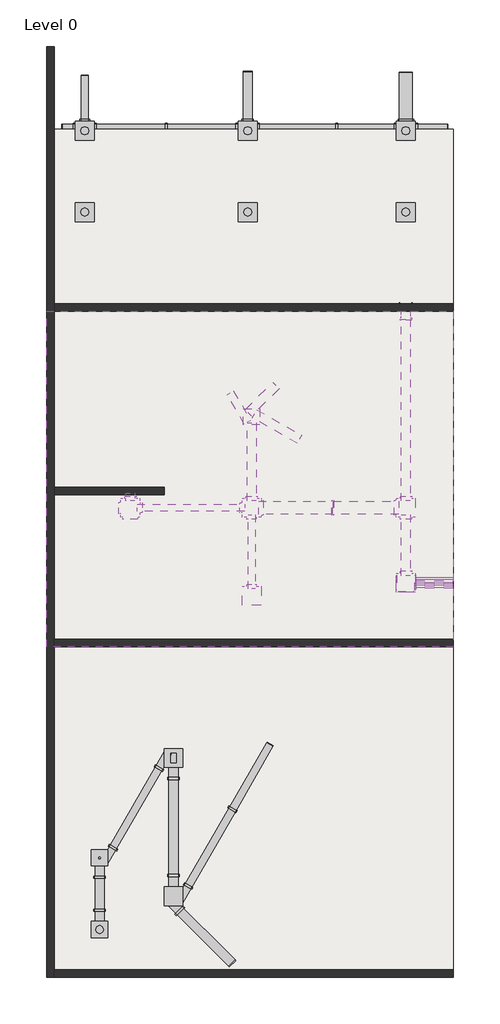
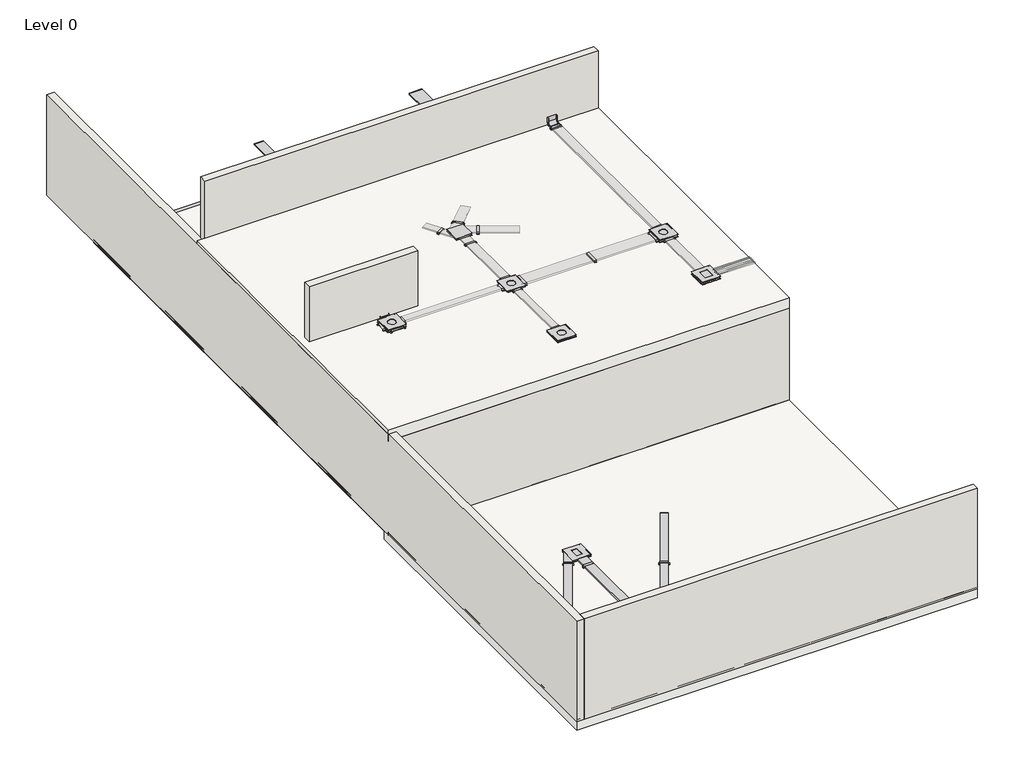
# One storey: 43 cable carrier segments, 40 cable carrier fittings, 5 slabs, 5 walls.
"""IFC4 building model written with IfcOpenShell, lengths in millimetres."""

from ifc_helpers import new_model, si_unit, point, frame, frame_2d, origin, origin_with_axes, place, context, project, spatial, polyline, circle_curve, trimmed, segment, composite_curve, outline, extrude, faceted_brep, transform, mapped, element, save
from components import cable_carrier_fitting_1449447f, cable_carrier_fitting_7ac4a7a7, cable_carrier_fitting_87aa20dd, cable_carrier_fitting_cbbdd0ad, cable_carrier_fitting_c73509c4, cable_carrier_fitting_62b491a6, cable_carrier_fitting_b13fa1fb, cable_carrier_fitting_6f266b18, cable_carrier_fitting_4ca78d10, cable_carrier_fitting_9fe9072b, cable_carrier_fitting_0547c750, cable_carrier_fitting_3ffd2079, cable_carrier_fitting_ff291c77, bracket_ukb_5e2ba21c, clamp_uks_f8b6c40f, clamp_uks_47fe2a39, clamp_uks_7d713c9f, clamp_uks_b9cb9329, end_bracket_uke_2c302845, end_bracket_uke_6d4a283f, end_bracket_uke_1009efe0, end_bracket_uke_49c26a37, end_bracket_uke_cbfa7e48, pipe_inlet_uds_f426f647, universal_junction_box_with_bottom_plate_size_2_cc3fe6d4, universal_junction_box_with_bottom_plate_size_2_f06dd73f, universal_junction_box_with_bottom_plate_size_3_b58b3dae, universal_junction_box_with_bottom_plate_size_3_48d80f4d, universal_junction_box_with_sheet_metal_casing_size_3_742ed20b, universal_junction_box_with_sheet_metal_casing_size_3_df0c8797

model = new_model("IFC4")

# Units and contexts
model_context = context("Model", 3, world=origin())
ifc_project = project(units=[si_unit("LENGTHUNIT", "METRE", prefix="MILLI")], contexts=[model_context])

# Site, building, storey
site = spatial("IfcSite", under=ifc_project)
building = spatial("IfcBuilding", under=site)
storey = spatial("IfcBuildingStorey", under=building, Name="Level 0", Elevation=0.0)

# Cable carrier fittings
placement = place(None, origin())
cable_carrier_fitting_shape = cable_carrier_fitting_1449447f(model_context)
element("IfcCableCarrierFitting", 1, ObjectType="Electrical-Installations_Hager_Vertical-Elbow-UKK : Vertical-Elbow-2-Compartments-UKK", at=placement, inside=storey, context=model_context, shape_type="MappedRepresentation", body=[
    mapped(cable_carrier_fitting_shape, transform((-6825.5844844, -4345.1669928, 2969.2), x_axis=(0.0, -1.0, 0.0), y_axis=(1.0000000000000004, 0.0, 0.0), z_axis=(0.0, 0.0, 1.0000000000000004))),
])
cable_carrier_fitting_2_shape = cable_carrier_fitting_7ac4a7a7(model_context)
element("IfcCableCarrierFitting", 2, ObjectType="Electrical-Installations_Hager_Vertical-Elbow-UKK : Vertical-Elbow-3-Compartments-UKK", at=placement, inside=storey, context=model_context, shape_type="MappedRepresentation", body=[
    mapped(cable_carrier_fitting_2_shape, transform((425.9001732, 439.801545, 2969.2), x_axis=(0.0, -1.0, 0.0), y_axis=(1.0, 0.0, 0.0), z_axis=(0.0, 0.0, 1.0))),
])
cable_carrier_fitting_3_shape = cable_carrier_fitting_87aa20dd(model_context)
element("IfcCableCarrierFitting", 3, ObjectType="Electrical-Installations_Hager_Vertical-Elbow-UKK : Vertical-Elbow-3-Compartments-UKK", at=placement, inside=storey, context=model_context, shape_type="MappedRepresentation", body=[
    mapped(cable_carrier_fitting_3_shape, transform((425.9001732, 1039.801545, 24.0), x_axis=(0.0, 1.0, 0.0), y_axis=(-1.0, 0.0, 0.0), z_axis=(0.0, 0.0, 1.0))),
])
cable_carrier_fitting_4_shape = cable_carrier_fitting_cbbdd0ad(model_context)
element("IfcCableCarrierFitting", 4, ObjectType="Electrical-Installations_Hager_Universal-Junction-Box-With-Retaining-Tabs-Size-2-Angled : Universal junction box with retaining tabs size 2", at=placement, inside=storey, context=model_context, shape_type="MappedRepresentation", body=[
    mapped(cable_carrier_fitting_4_shape, transform((-7633.6577636, -15627.7354934, 85.0), x_axis=(1.0, 0.0, 0.0), y_axis=(0.0, 1.0, 0.0), z_axis=(0.0, 0.0, 1.0))),
])
cable_carrier_fitting_5_shape = cable_carrier_fitting_c73509c4(model_context)
element("IfcCableCarrierFitting", 5, ObjectType="Electrical-Installations_Hager_Universal-Junction-Box-With-Retaining-Tabs-Size-3-Angled : Universal junction box with retaining tabs size 3", at=placement, inside=storey, context=model_context, shape_type="MappedRepresentation", body=[
    mapped(cable_carrier_fitting_5_shape, transform((-5689.5217227, -14751.4029445, 85.0), x_axis=(1.0, 0.0, 0.0), y_axis=(0.0, 1.0, 0.0), z_axis=(0.0, 0.0, 1.0))),
])
cable_carrier_fitting_6_shape = cable_carrier_fitting_62b491a6(model_context)
element("IfcCableCarrierFitting", 6, ObjectType="Electrical-Installations_Hager_Universal-Junction-Box-With-Retaining-Tabs-Size-2 : Universal junction box with retaining tabs size 2", at=placement, inside=storey, context=model_context, shape_type="MappedRepresentation", body=[
    mapped(cable_carrier_fitting_6_shape, transform((-6825.5844844, -4528.1669928, 2969.2), x_axis=(1.0, 0.0, 0.0), y_axis=(0.0, 1.0, 0.0), z_axis=(0.0, 0.0, 1.0))),
])
cable_carrier_fitting_7_shape = cable_carrier_fitting_b13fa1fb(model_context)
element("IfcCableCarrierFitting", 7, ObjectType="Electrical-Installations_Hager_Universal-Junction-Box-With-Retaining-Tabs-Size-3 : Universal junction box with retaining tabs size 3", at=placement, inside=storey, context=model_context, shape_type="MappedRepresentation", body=[
    mapped(cable_carrier_fitting_7_shape, transform((-3632.8221609, -4528.1669928, 2969.2), x_axis=(1.0, 0.0, 0.0), y_axis=(0.0, 1.0, 0.0), z_axis=(0.0, 0.0, 1.0))),
])
cable_carrier_fitting_8_shape = cable_carrier_fitting_6f266b18(model_context)
element("IfcCableCarrierFitting", 8, ObjectType="Electrical-Installations_Hager_Universal-Junction-Box-With-Retaining-Tabs-Size-3 : Universal junction box with retaining tabs size 3", at=placement, inside=storey, context=model_context, shape_type="MappedRepresentation", body=[
    mapped(cable_carrier_fitting_8_shape, transform((-8025.38033, 5391.6758526, 24.0), x_axis=(0.0, 1.0, 0.0), y_axis=(-1.0, 0.0, 0.0), z_axis=(0.0, 0.0, 1.0))),
])
cable_carrier_fitting_9_shape = cable_carrier_fitting_4ca78d10(model_context)
element("IfcCableCarrierFitting", 9, ObjectType="Electrical-Installations_Hager_Universal-Junction-Box-With-Retaining-Tabs-Size-3 : Universal junction box with retaining tabs size 3", at=placement, inside=storey, context=model_context, shape_type="MappedRepresentation", body=[
    mapped(cable_carrier_fitting_9_shape, transform((-8025.38033, 3255.0755111, 24.0), x_axis=(1.0, 0.0, 0.0), y_axis=(0.0, 1.0, 0.0), z_axis=(0.0, 0.0, 1.0))),
])
cable_carrier_fitting_10_shape = cable_carrier_fitting_9fe9072b(model_context)
element("IfcCableCarrierFitting", 10, ObjectType="Electrical-Installations_Hager_Universal-Junction-Box-With-Retaining-Tabs-Size-3 : Universal junction box with retaining tabs size 3", at=placement, inside=storey, context=model_context, shape_type="MappedRepresentation", body=[
    mapped(cable_carrier_fitting_10_shape, transform((-3736.4937866, 5391.6758526, 24.0), x_axis=(0.0, 1.0, 0.0), y_axis=(-1.0, 0.0, 0.0), z_axis=(0.0, 0.0, 1.0))),
])
cable_carrier_fitting_11_shape = cable_carrier_fitting_0547c750(model_context)
element("IfcCableCarrierFitting", 11, ObjectType="Electrical-Installations_Hager_Universal-Junction-Box-With-Retaining-Tabs-Size-3 : Universal junction box with retaining tabs size 3", at=placement, inside=storey, context=model_context, shape_type="MappedRepresentation", body=[
    mapped(cable_carrier_fitting_11_shape, transform((-3736.4937866, 3255.0755111, 24.0), x_axis=(0.0, 1.0, 0.0), y_axis=(-1.0, 0.0, 0.0), z_axis=(0.0, 0.0, 1.0))),
])
cable_carrier_fitting_12_shape = cable_carrier_fitting_3ffd2079(model_context)
element("IfcCableCarrierFitting", 12, ObjectType="Electrical-Installations_Hager_Universal-Junction-Box-With-Retaining-Tabs-Size-3 : Universal junction box with retaining tabs size 3", at=placement, inside=storey, context=model_context, shape_type="MappedRepresentation", body=[
    mapped(cable_carrier_fitting_12_shape, transform((425.9001732, 5391.6758526, 24.0), x_axis=(0.0, 1.0, 0.0), y_axis=(-1.0, 0.0, 0.0), z_axis=(0.0, 0.0, 1.0))),
])
cable_carrier_fitting_13_shape = cable_carrier_fitting_ff291c77(model_context)
element("IfcCableCarrierFitting", 13, ObjectType="Electrical-Installations_Hager_Universal-Junction-Box-With-Retaining-Tabs-Size-3 : Universal junction box with retaining tabs size 3", at=placement, inside=storey, context=model_context, shape_type="MappedRepresentation", body=[
    mapped(cable_carrier_fitting_13_shape, transform((425.9001732, 3255.0755111, 24.0), x_axis=(0.0, 1.0, 0.0), y_axis=(-1.0, 0.0, 0.0), z_axis=(0.0, 0.0, 1.0))),
])
bracket_ukb_shape = bracket_ukb_5e2ba21c(model_context)
element("IfcCableCarrierFitting", 14, ObjectType="Electrical-Installations_Hager_Bracket-UKB : Bracket-UKB", at=placement, inside=storey, context=model_context, shape_type="MappedRepresentation", body=[
    mapped(bracket_ukb_shape, transform((-8025.38033, 2317.662986, 10.0), x_axis=(1.0, 0.0, 0.0), y_axis=(0.0, 1.0, 0.0), z_axis=(0.0, 0.0, 1.0))),
])
clamp_uks_shape = clamp_uks_f8b6c40f(model_context)
element("IfcCableCarrierFitting", 15, ObjectType="Electrical-Installations_Hager_Clamp-UKS : Clamp-UKS", at=placement, inside=storey, context=model_context, shape_type="MappedRepresentation", body=[
    mapped(clamp_uks_shape, transform((-5851.4370583, 5391.6758526, 24.0), x_axis=(-1.0, 0.0, 0.0), y_axis=(0.0, -1.0, 0.0), z_axis=(0.0, 0.0, 1.0))),
])
element("IfcCableCarrierFitting", 16, ObjectType="Electrical-Installations_Hager_Clamp-UKS : Clamp-UKS", at=placement, inside=storey, context=model_context, shape_type="MappedRepresentation", body=[
    mapped(clamp_uks_shape, transform((-1361.520416, 5391.6758526, 24.0), x_axis=(-1.0, 0.0, 0.0), y_axis=(0.0, -1.0, 0.0), z_axis=(0.0, 0.0, 1.0))),
])
clamp_uks_2_shape = clamp_uks_47fe2a39(model_context)
element("IfcCableCarrierFitting", 17, ObjectType="Electrical-Installations_Hager_Clamp-UKS : Clamp-UKS", at=placement, inside=storey, context=model_context, shape_type="MappedRepresentation", body=[
    mapped(clamp_uks_2_shape, transform((-1361.520416, 3255.0755111, 24.0), x_axis=(-1.0, 0.0, 0.0), y_axis=(0.0, -1.0, 0.0), z_axis=(0.0, 0.0, 1.0))),
])
element("IfcCableCarrierFitting", 18, ObjectType="Electrical-Installations_Hager_Clamp-UKS : Clamp-UKS", at=placement, inside=storey, context=model_context, shape_type="MappedRepresentation", body=[
    mapped(clamp_uks_2_shape, transform((-5910.4370583, 3255.0755111, 24.0), x_axis=(-1.0, 0.0, 0.0), y_axis=(0.0, -1.0, 0.0), z_axis=(0.0, 0.0, 1.0))),
])
clamp_uks_3_shape = clamp_uks_7d713c9f(model_context)
element("IfcCableCarrierFitting", 19, ObjectType="Electrical-Installations_Hager_Clamp-UKS : Clamp-UKS", at=placement, inside=storey, context=model_context, shape_type="MappedRepresentation", body=[
    mapped(clamp_uks_3_shape, transform((-4123.5022728, -12438.8538416, 85.0), x_axis=(-0.5000000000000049, -0.8660254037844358, 0.0), y_axis=(0.8660254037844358, -0.5000000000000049, 0.0), z_axis=(0.0, 0.0, 1.0))),
])
clamp_uks_4_shape = clamp_uks_b9cb9329(model_context)
element("IfcCableCarrierFitting", 20, ObjectType="Electrical-Installations_Hager_Clamp-UKS : Clamp-UKS", at=placement, inside=storey, context=model_context, shape_type="MappedRepresentation", body=[
    mapped(clamp_uks_4_shape, transform((-1465.3079934, -4528.1669928, 2969.2), x_axis=(-1.0, 0.0, 0.0), y_axis=(0.0, -1.0, 0.0), z_axis=(0.0, 0.0, 1.0))),
])
end_bracket_uke_shape = end_bracket_uke_2c302845(model_context)
element("IfcCableCarrierFitting", 21, ObjectType="Electrical-Installations_Hager_End-Bracket-UKE : End-Bracket-UKE", at=placement, inside=storey, context=model_context, shape_type="MappedRepresentation", body=[
    mapped(end_bracket_uke_shape, transform((-8608.0895141, 5391.6758526, 24.0), x_axis=(-1.0, 0.0, 0.0), y_axis=(0.0, -1.0, 0.0), z_axis=(0.0, 0.0, 1.0))),
])
element("IfcCableCarrierFitting", 22, ObjectType="Electrical-Installations_Hager_End-Bracket-UKE : End-Bracket-UKE", at=placement, inside=storey, context=model_context, shape_type="MappedRepresentation", body=[
    mapped(end_bracket_uke_shape, transform((1512.5062134, 5391.6758526, 24.0), x_axis=(1.0, 0.0, 0.0), y_axis=(0.0, 1.0, 0.0), z_axis=(0.0, 0.0, 1.0))),
])
element("IfcCableCarrierFitting", 23, ObjectType="Electrical-Installations_Hager_End-Bracket-UKE : End-Bracket-UKE", at=placement, inside=storey, context=model_context, shape_type="MappedRepresentation", body=[
    mapped(end_bracket_uke_shape, transform((425.9001732, 6917.8189536, 24.0), x_axis=(0.0, 1.0, 0.0), y_axis=(-1.0, 0.0, 0.0), z_axis=(0.0, 0.0, 1.0))),
])
end_bracket_uke_2_shape = end_bracket_uke_6d4a283f(model_context)
element("IfcCableCarrierFitting", 24, ObjectType="Electrical-Installations_Hager_End-Bracket-UKE : End-Bracket-UKE", at=placement, inside=storey, context=model_context, shape_type="MappedRepresentation", body=[
    mapped(end_bracket_uke_2_shape, transform((-8608.0895141, 3255.0755111, 24.0), x_axis=(-1.0, 0.0, 0.0), y_axis=(0.0, -1.0, 0.0), z_axis=(0.0, 0.0, 1.0))),
])
element("IfcCableCarrierFitting", 25, ObjectType="Electrical-Installations_Hager_End-Bracket-UKE : End-Bracket-UKE", at=placement, inside=storey, context=model_context, shape_type="MappedRepresentation", body=[
    mapped(end_bracket_uke_2_shape, transform((-3736.4937866, 1606.0755111, 24.0), x_axis=(0.0, -1.0, 0.0), y_axis=(1.0, 0.0, 0.0), z_axis=(0.0, 0.0, 1.0))),
])
element("IfcCableCarrierFitting", 26, ObjectType="Electrical-Installations_Hager_End-Bracket-UKE : End-Bracket-UKE", at=placement, inside=storey, context=model_context, shape_type="MappedRepresentation", body=[
    mapped(end_bracket_uke_2_shape, transform((1512.5062134, 3255.0755111, 24.0), x_axis=(1.0, 0.0, 0.0), y_axis=(0.0, 1.0, 0.0), z_axis=(0.0, 0.0, 1.0))),
])
element("IfcCableCarrierFitting", 27, ObjectType="Electrical-Installations_Hager_End-Bracket-UKE : End-Bracket-UKE", at=placement, inside=storey, context=model_context, shape_type="MappedRepresentation", body=[
    mapped(end_bracket_uke_2_shape, transform((-3736.4937866, 6940.6758526, 24.0), x_axis=(0.0, 1.0, 0.0), y_axis=(-1.0, 0.0, 0.0), z_axis=(0.0, 0.0, 1.0))),
])
end_bracket_uke_3_shape = end_bracket_uke_1009efe0(model_context)
element("IfcCableCarrierFitting", 28, ObjectType="Electrical-Installations_Hager_End-Bracket-UKE : End-Bracket-UKE", at=placement, inside=storey, context=model_context, shape_type="MappedRepresentation", body=[
    mapped(end_bracket_uke_3_shape, transform((-8025.38033, 1726.0755111, 24.0), x_axis=(0.0, -1.0, 0.0), y_axis=(1.0, 0.0, 0.0), z_axis=(0.0, 0.0, 1.0))),
])
element("IfcCableCarrierFitting", 29, ObjectType="Electrical-Installations_Hager_End-Bracket-UKE : End-Bracket-UKE", at=placement, inside=storey, context=model_context, shape_type="MappedRepresentation", body=[
    mapped(end_bracket_uke_3_shape, transform((-8025.38033, 6840.6758526, 24.0), x_axis=(0.0, 1.0, 0.0), y_axis=(-1.0, 0.0, 0.0), z_axis=(0.0, 0.0, 1.0))),
])
end_bracket_uke_4_shape = end_bracket_uke_49c26a37(model_context)
element("IfcCableCarrierFitting", 30, ObjectType="Electrical-Installations_Hager_End-Bracket-UKE : End-Bracket-UKE", at=placement, inside=storey, context=model_context, shape_type="MappedRepresentation", body=[
    mapped(end_bracket_uke_4_shape, transform((-4148.0289397, -16514.1799987, 85.0), x_axis=(0.7071067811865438, -0.7071067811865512, 0.0), y_axis=(0.7071067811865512, 0.7071067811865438, 0.0), z_axis=(0.0, 0.0, 1.0))),
])
end_bracket_uke_5_shape = end_bracket_uke_cbfa7e48(model_context)
element("IfcCableCarrierFitting", 31, ObjectType="Electrical-Installations_Hager_End-Bracket-UKE : End-Bracket-UKE", at=placement, inside=storey, context=model_context, shape_type="MappedRepresentation", body=[
    mapped(end_bracket_uke_5_shape, transform((-3153.0022728, -10757.8985328, 85.0), x_axis=(0.5000000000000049, 0.8660254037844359, 0.0), y_axis=(-0.8660254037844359, 0.5000000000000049, 0.0), z_axis=(0.0, 0.0, 1.0))),
])
pipe_inlet_uds_shape = pipe_inlet_uds_f426f647(model_context)
element("IfcCableCarrierFitting", 32, ObjectType="Electrical-Installations_Hager_Pipe-Inlet-UDS : Pipe-Inlet-UDS", at=placement, inside=storey, context=model_context, shape_type="MappedRepresentation", body=[
    mapped(pipe_inlet_uds_shape, transform((658.9001732, -6496.8915456, 2957.247197), x_axis=(0.0, 1.0000000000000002, 0.0), y_axis=(-1.0000000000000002, 0.0, 0.0), z_axis=(0.0, 0.0, 1.0))),
])
element("IfcCableCarrierFitting", 33, ObjectType="Electrical-Installations_Hager_Pipe-Inlet-UDS : Pipe-Inlet-UDS", at=placement, inside=storey, context=model_context, shape_type="MappedRepresentation", body=[
    mapped(pipe_inlet_uds_shape, transform((425.9001732, -6729.8915456, 2957.247197), x_axis=(1.0, 0.0, 0.0), y_axis=(0.0, 1.0, 0.0), z_axis=(0.0, 0.0, 1.0))),
])
element("IfcCableCarrierFitting", 34, ObjectType="Electrical-Installations_Hager_Pipe-Inlet-UDS : Pipe-Inlet-UDS", at=placement, inside=storey, context=model_context, shape_type="MappedRepresentation", body=[
    mapped(pipe_inlet_uds_shape, transform((192.9001732, -6496.8915456, 2957.2), x_axis=(0.0, -1.0000000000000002, 0.0), y_axis=(1.0000000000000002, 0.0, 0.0), z_axis=(0.0, 0.0, 1.0))),
])
universal_junction_box_with_bottom_plate_size_2_shape = universal_junction_box_with_bottom_plate_size_2_cc3fe6d4(model_context)
element("IfcCableCarrierFitting", 35, ObjectType="Electrical-Installations_Hager_Universal-Junction-Box-With-Bottom-Plate-Size-2-Angled : Universal junction box with bottom plate size 2", at=placement, inside=storey, context=model_context, shape_type="MappedRepresentation", body=[
    mapped(universal_junction_box_with_bottom_plate_size_2_shape, transform((-3632.8221609, -2131.2102574, 2969.2), x_axis=(1.0, 0.0, 0.0), y_axis=(0.0, 1.0, 0.0), z_axis=(0.0, 0.0, 1.0))),
])
universal_junction_box_with_bottom_plate_size_2_2_shape = universal_junction_box_with_bottom_plate_size_2_f06dd73f(model_context)
element("IfcCableCarrierFitting", 36, ObjectType="Electrical-Installations_Hager_Universal-Junction-Box-With-Bottom-Plate-Size-2-Angled : Universal junction box with bottom plate size 2", at=placement, inside=storey, context=model_context, shape_type="MappedRepresentation", body=[
    mapped(universal_junction_box_with_bottom_plate_size_2_2_shape, transform((-7633.6577636, -13740.715542, 85.0), x_axis=(1.0, 0.0, 0.0), y_axis=(0.0, 1.0, 0.0), z_axis=(0.0, 0.0, 1.0))),
])
universal_junction_box_with_bottom_plate_size_3_shape = universal_junction_box_with_bottom_plate_size_3_b58b3dae(model_context)
element("IfcCableCarrierFitting", 37, ObjectType="Electrical-Installations_Hager_Universal-Junction-Box-With-Bottom-Plate-Size-3 : Universal junction box with bottom plate size 3", at=placement, inside=storey, context=model_context, shape_type="MappedRepresentation", body=[
    mapped(universal_junction_box_with_bottom_plate_size_3_shape, transform((-3632.8221609, -6848.0680021, 2969.2), x_axis=(1.0, 0.0, 0.0), y_axis=(0.0, 1.0, 0.0), z_axis=(0.0, 0.0, 1.0))),
])
universal_junction_box_with_bottom_plate_size_3_2_shape = universal_junction_box_with_bottom_plate_size_3_48d80f4d(model_context)
element("IfcCableCarrierFitting", 38, ObjectType="Electrical-Installations_Hager_Universal-Junction-Box-With-Bottom-Plate-Size-3-Angled : Universal junction box with bottom plate size 3", at=placement, inside=storey, context=model_context, shape_type="MappedRepresentation", body=[
    mapped(universal_junction_box_with_bottom_plate_size_3_2_shape, transform((-5689.5217227, -11112.5036639, 85.0), x_axis=(1.0, 0.0, 0.0), y_axis=(0.0, 1.0, 0.0), z_axis=(0.0, 0.0, 1.0))),
])
universal_junction_box_with_sheet_metal_casing_size_3_shape = universal_junction_box_with_sheet_metal_casing_size_3_742ed20b(model_context)
element("IfcCableCarrierFitting", 39, ObjectType="Electrical-Installations_Hager_Universal-Junction-Box-With-Sheet-Metal-Casing-Size-3 : Universal junction box with sheet metal casing size 3", at=placement, inside=storey, context=model_context, shape_type="MappedRepresentation", body=[
    mapped(universal_junction_box_with_sheet_metal_casing_size_3_shape, transform((425.9001732, -6496.8915456, 2969.2), x_axis=(1.0, 0.0, 0.0), y_axis=(0.0, 1.0, 0.0), z_axis=(0.0, 0.0, 1.0))),
])
universal_junction_box_with_sheet_metal_casing_size_3_2_shape = universal_junction_box_with_sheet_metal_casing_size_3_df0c8797(model_context)
element("IfcCableCarrierFitting", 40, ObjectType="Electrical-Installations_Hager_Universal-Junction-Box-With-Sheet-Metal-Casing-Size-3 : Universal junction box with sheet metal casing size 3", at=placement, inside=storey, context=model_context, shape_type="MappedRepresentation", body=[
    mapped(universal_junction_box_with_sheet_metal_casing_size_3_2_shape, transform((425.9001732, -4528.1669928, 2969.2), x_axis=(1.0, 0.0, 0.0), y_axis=(0.0, 1.0, 0.0), z_axis=(0.0, 0.0, 1.0))),
])

# Cable carrier segments
element("IfcCableCarrierSegment", 41, ObjectType="Electrical-Installations_Cable-Trays_Hager_Screed-Covered-Trunking-System-UK_Trunking-2-Compartments", at=placement, inside=storey, context=model_context, shape_type="SweptSolid", body=[
    extrude(outline(polyline([(608.9001732, 5221.6758526), (608.9001732, 5561.6758526), (1512.5062134, 5561.6758526), (1512.5062134, 5221.6758526), (608.9001732, 5221.6758526)])), frame((0.0, 0.0, 10.0), z_axis=(0.0, 0.0, 1.0), x_axis=(1.0, 0.0, 0.0)), (0.0, 0.0, 1.0), 28.0),
])
element("IfcCableCarrierSegment", 42, ObjectType="Electrical-Installations_Cable-Trays_Hager_Screed-Covered-Trunking-System-UK_Trunking-2-Compartments", at=placement, inside=storey, context=model_context, shape_type="SweptSolid", body=[
    extrude(outline(polyline([(-8608.0895141, 5221.6758526), (-8608.0895141, 5561.6758526), (-8208.38033, 5561.6758526), (-8208.38033, 5221.6758526), (-8608.0895141, 5221.6758526)])), frame((0.0, 0.0, 10.0), z_axis=(0.0, 0.0, 1.0), x_axis=(1.0, 0.0, 0.0)), (0.0, 0.0, 1.0), 28.0),
])
element("IfcCableCarrierSegment", 43, ObjectType="Electrical-Installations_Cable-Trays_Hager_Screed-Covered-Trunking-System-UK_Trunking-2-Compartments", at=placement, inside=storey, context=model_context, shape_type="SweptSolid", body=[
    extrude(outline(polyline([(608.9001732, 3135.0755111), (608.9001732, 3375.0755111), (1512.5062134, 3375.0755111), (1512.5062134, 3135.0755111), (608.9001732, 3135.0755111)])), frame((0.0, 0.0, 10.0), z_axis=(0.0, 0.0, 1.0), x_axis=(1.0, 0.0, 0.0)), (0.0, 0.0, 1.0), 28.0),
])
element("IfcCableCarrierSegment", 44, ObjectType="Electrical-Installations_Cable-Trays_Hager_Screed-Covered-Trunking-System-UK_Trunking-2-Compartments", at=placement, inside=storey, context=model_context, shape_type="SweptSolid", body=[
    extrude(outline(polyline([(-8608.0895141, 3135.0755111), (-8608.0895141, 3375.0755111), (-8208.38033, 3375.0755111), (-8208.38033, 3135.0755111), (-8608.0895141, 3135.0755111)])), frame((0.0, 0.0, 10.0), z_axis=(0.0, 0.0, 1.0), x_axis=(1.0, 0.0, 0.0)), (0.0, 0.0, 1.0), 28.0),
])
element("IfcCableCarrierSegment", 45, ObjectType="Electrical-Installations_Cable-Trays_Hager_Screed-Covered-Trunking-System-UK_Trunking-2-Compartments", at=placement, inside=storey, context=model_context, shape_type="SweptSolid", body=[
    extrude(outline(polyline([(-8120.38033, 5208.6758526), (-7930.38033, 5208.6758526), (-7930.38033, 3438.0755111), (-8120.38033, 3438.0755111), (-8120.38033, 5208.6758526)])), frame((0.0, 0.0, 10.0), z_axis=(0.0, 0.0, 1.0), x_axis=(1.0, 0.0, 0.0)), (0.0, 0.0, 1.0), 28.0),
])
element("IfcCableCarrierSegment", 46, ObjectType="Electrical-Installations_Cable-Trays_Hager_Screed-Covered-Trunking-System-UK_Trunking-2-Compartments", at=placement, inside=storey, context=model_context, shape_type="SweptSolid", body=[
    extrude(outline(polyline([(-3856.4937866, 3072.0755111), (-3616.4937866, 3072.0755111), (-3616.4937866, 1606.0755111), (-3856.4937866, 1606.0755111), (-3856.4937866, 3072.0755111)])), frame((0.0, 0.0, 10.0), z_axis=(0.0, 0.0, 1.0), x_axis=(1.0, 0.0, 0.0)), (0.0, 0.0, 1.0), 28.0),
])
element("IfcCableCarrierSegment", 47, ObjectType="Electrical-Installations_Cable-Trays_Hager_Screed-Covered-Trunking-System-UK_Trunking-2-Compartments", at=placement, inside=storey, context=model_context, shape_type="SweptSolid", body=[
    extrude(outline(polyline([(-3856.4937866, 5208.6758526), (-3616.4937866, 5208.6758526), (-3616.4937866, 3438.0755111), (-3856.4937866, 3438.0755111), (-3856.4937866, 5208.6758526)])), frame((0.0, 0.0, 10.0), z_axis=(0.0, 0.0, 1.0), x_axis=(1.0, 0.0, 0.0)), (0.0, 0.0, 1.0), 28.0),
])
element("IfcCableCarrierSegment", 48, ObjectType="Electrical-Installations_Cable-Trays_Hager_Screed-Covered-Trunking-System-UK_Trunking-2-Compartments", at=placement, inside=storey, context=model_context, shape_type="SweptSolid", body=[
    extrude(outline(polyline([(0.0, -340.0), (0.0, 0.0), (1343.143101, 0.0), (1343.143101, -340.0), (0.0, -340.0)])), frame((595.9001732, 6917.8189536, 10.0), z_axis=(0.0, -2.2085102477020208e-12, 1.0), x_axis=(0.0, -1.0, -2.2085102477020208e-12)), (0.0, 0.0, 1.0), 28.0),
])
element("IfcCableCarrierSegment", 49, ObjectType="Electrical-Installations_Cable-Trays_Hager_Screed-Covered-Trunking-System-UK_Trunking-2-Compartments", at=placement, inside=storey, context=model_context, shape_type="SweptSolid", body=[
    extrude(outline(polyline([(255.9001732, 5208.6758526), (595.9001732, 5208.6758526), (595.9001732, 3438.0755111), (255.9001732, 3438.0755111), (255.9001732, 5208.6758526)])), frame((0.0, 0.0, 10.0), z_axis=(0.0, 0.0, 1.0), x_axis=(1.0, 0.0, 0.0)), (0.0, 0.0, 1.0), 28.0),
])
element("IfcCableCarrierSegment", 50, ObjectType="Electrical-Installations_Cable-Trays_Hager_Screed-Covered-Trunking-System-UK_Trunking-2-Compartments", at=placement, inside=storey, context=model_context, shape_type="SweptSolid", body=[
    extrude(outline(polyline([(-7842.38033, 5221.6758526), (-7842.38033, 5561.6758526), (-5881.4396804, 5561.6758526), (-5881.4396804, 5221.6758526), (-7842.38033, 5221.6758526)])), frame((0.0, 0.0, 10.0), z_axis=(0.0, 0.0, 1.0), x_axis=(1.0, 0.0, 0.0)), (0.0, 0.0, 1.0), 28.0),
])
element("IfcCableCarrierSegment", 51, ObjectType="Electrical-Installations_Cable-Trays_Hager_Screed-Covered-Trunking-System-UK_Trunking-2-Compartments", at=placement, inside=storey, context=model_context, shape_type="SweptSolid", body=[
    extrude(outline(polyline([(-3553.4937866, 5221.6758526), (-3553.4937866, 5561.6758526), (-1391.5230381, 5561.6758526), (-1391.5230381, 5221.6758526), (-3553.4937866, 5221.6758526)])), frame((0.0, 0.0, 10.0), z_axis=(0.0, 0.0, 1.0), x_axis=(1.0, 0.0, 0.0)), (0.0, 0.0, 1.0), 28.0),
])
element("IfcCableCarrierSegment", 52, ObjectType="Electrical-Installations_Cable-Trays_Hager_Screed-Covered-Trunking-System-UK_Trunking-2-Compartments", at=placement, inside=storey, context=model_context, shape_type="SweptSolid", body=[
    extrude(outline(polyline([(-3553.4937866, 3135.0755111), (-3553.4937866, 3375.0755111), (-1391.5230381, 3375.0755111), (-1391.5230381, 3135.0755111), (-3553.4937866, 3135.0755111)])), frame((0.0, 0.0, 10.0), z_axis=(0.0, 0.0, 1.0), x_axis=(1.0, 0.0, 0.0)), (0.0, 0.0, 1.0), 28.0),
])
element("IfcCableCarrierSegment", 53, ObjectType="Electrical-Installations_Cable-Trays_Hager_Screed-Covered-Trunking-System-UK_Trunking-2-Compartments", at=placement, inside=storey, context=model_context, shape_type="SweptSolid", body=[
    extrude(outline(polyline([(-7842.38033, 3135.0755111), (-7842.38033, 3375.0755111), (-5940.4396804, 3375.0755111), (-5940.4396804, 3135.0755111), (-7842.38033, 3135.0755111)])), frame((0.0, 0.0, 10.0), z_axis=(0.0, 0.0, 1.0), x_axis=(1.0, 0.0, 0.0)), (0.0, 0.0, 1.0), 28.0),
])
element("IfcCableCarrierSegment", 54, ObjectType="Electrical-Installations_Cable-Trays_Hager_Screed-Covered-Trunking-System-UK_Trunking-2-Compartments", at=placement, inside=storey, context=model_context, shape_type="SweptSolid", body=[
    extrude(outline(polyline([(-8120.38033, 3072.0755111), (-7930.38033, 3072.0755111), (-7930.38033, 1726.0755111), (-8120.38033, 1726.0755111), (-8120.38033, 3072.0755111)])), frame((0.0, 0.0, 10.0), z_axis=(0.0, 0.0, 1.0), x_axis=(1.0, 0.0, 0.0)), (0.0, 0.0, 1.0), 28.0),
])
element("IfcCableCarrierSegment", 55, ObjectType="Electrical-Installations_Cable-Trays_Hager_Screed-Covered-Trunking-System-UK_Trunking-3-Compartments", at=placement, inside=storey, context=model_context, shape_type="SweptSolid", body=[
    extrude(outline(polyline([(255.9001732, 3072.0755111), (595.9001732, 3072.0755111), (595.9001732, 1039.801545), (255.9001732, 1039.801545), (255.9001732, 3072.0755111)])), frame((0.0, 0.0, 10.0), z_axis=(0.0, 0.0, 1.0), x_axis=(1.0, 0.0, 0.0)), (0.0, 0.0, 1.0), 28.0),
])
element("IfcCableCarrierSegment", 56, ObjectType="Electrical-Installations_Cable-Trays_Hager_Screed-Covered-Trunking-System-UK_Trunking-3-Compartments", at=placement, inside=storey, context=model_context, shape_type="SweptSolid", body=[
    extrude(outline(polyline([(-7930.38033, 5574.6758526), (-8120.38033, 5574.6758526), (-8120.38033, 6840.6758526), (-7930.38033, 6840.6758526), (-7930.38033, 5574.6758526)])), frame((0.0, 0.0, 10.0), z_axis=(0.0, 0.0, 1.0), x_axis=(1.0, 0.0, 0.0)), (0.0, 0.0, 1.0), 28.0),
])
element("IfcCableCarrierSegment", 57, ObjectType="Electrical-Installations_Cable-Trays_Hager_Screed-Covered-Trunking-System-UK_Trunking-3-Compartments", at=placement, inside=storey, context=model_context, shape_type="SweptSolid", body=[
    extrude(outline(polyline([(-3815.8221609, -4433.1669928), (-3815.8221609, -4623.1669928), (-6642.5844844, -4623.1669928), (-6642.5844844, -4433.1669928), (-3815.8221609, -4433.1669928)])), frame((0.0, 0.0, 2945.2), z_axis=(0.0, 0.0, 1.0), x_axis=(1.0, 0.0, 0.0)), (0.0, 0.0, 1.0), 48.0),
])
element("IfcCableCarrierSegment", 58, ObjectType="Electrical-Installations_Cable-Trays_Hager_Screed-Covered-Trunking-System-UK_Trunking-3-Compartments", at=placement, inside=storey, context=model_context, shape_type="SweptSolid", body=[
    extrude(outline(polyline([(305.9001732, -4711.1669928), (545.9001732, -4711.1669928), (545.9001732, -6313.8915456), (305.9001732, -6313.8915456), (305.9001732, -4711.1669928)])), frame((0.0, 0.0, 2955.2), z_axis=(0.0, 0.0, 1.0), x_axis=(1.0, 0.0, 0.0)), (0.0, 0.0, 1.0), 28.0),
])
element("IfcCableCarrierSegment", 59, ObjectType="Electrical-Installations_Cable-Trays_Hager_Screed-Covered-Trunking-System-UK_Trunking-3-Compartments", at=placement, inside=storey, context=model_context, shape_type="SweptSolid", body=[
    extrude(outline(polyline([(545.9001732, -4345.1669928), (305.9001732, -4345.1669928), (305.9001732, 439.801545), (545.9001732, 439.801545), (545.9001732, -4345.1669928)])), frame((0.0, 0.0, 2945.2), z_axis=(0.0, 0.0, 1.0), x_axis=(1.0, 0.0, 0.0)), (0.0, 0.0, 1.0), 48.0),
])
element("IfcCableCarrierSegment", 60, ObjectType="Electrical-Installations_Cable-Trays_Hager_Screed-Covered-Trunking-System-UK_Trunking-3-Compartments", at=placement, inside=storey, context=model_context, shape_type="SweptSolid", body=[
    extrude(outline(polyline([(-3727.8221609, -4711.1669928), (-3537.8221609, -4711.1669928), (-3537.8221609, -6663.0680021), (-3727.8221609, -6663.0680021), (-3727.8221609, -4711.1669928)])), frame((0.0, 0.0, 2955.2), z_axis=(0.0, 0.0, 1.0), x_axis=(1.0, 0.0, 0.0)), (0.0, 0.0, 1.0), 28.0),
])
element("IfcCableCarrierSegment", 61, ObjectType="Rigid Nonmetallic Conduit (RNC)", at=placement, inside=storey, context=model_context, shape_type="SweptSolid", body=[
    extrude(outline(composite_curve([segment(trimmed(circle_curve(frame_2d((-6630.0774292, 2984.3)), 10.0), [point((-6640.0774292, 2984.3))], [point((-6630.0774292, 2994.3))], False, "CARTESIAN"), True, "CONTINUOUS"), segment(trimmed(circle_curve(frame_2d((-6630.0774292, 2984.3)), 10.0), [point((-6630.0774292, 2994.3))], [point((-6620.0774292, 2984.3))], False, "CARTESIAN"), True, "CONTINUOUS"), segment(trimmed(circle_curve(frame_2d((-6630.0774292, 2984.3)), 10.0), [point((-6620.0774292, 2984.3))], [point((-6630.0774292, 2974.3))], False, "CARTESIAN"), True, "CONTINUOUS"), segment(trimmed(circle_curve(frame_2d((-6630.0774292, 2984.3)), 10.0), [point((-6630.0774292, 2974.3))], [point((-6640.0774292, 2984.3))], False, "CARTESIAN"), True, "CONTINUOUS")], self_intersect=False)), frame((683.9001732, 0.0, 0.0), z_axis=(1.0, 0.0, 0.0), x_axis=(0.0, 1.0, 0.0)), (0.0, 0.0, 1.0), 980.0),
])
element("IfcCableCarrierSegment", 62, ObjectType="Rigid Nonmetallic Conduit (RNC)", at=placement, inside=storey, context=model_context, shape_type="SweptSolid", body=[
    extrude(outline(composite_curve([segment(trimmed(circle_curve(frame_2d((-6576.3274292, 2984.3)), 16.0), [point((-6592.3274292, 2984.3))], [point((-6576.3274292, 3000.3))], False, "CARTESIAN"), True, "CONTINUOUS"), segment(trimmed(circle_curve(frame_2d((-6576.3274292, 2984.3)), 16.0), [point((-6576.3274292, 3000.3))], [point((-6560.3274292, 2984.3))], False, "CARTESIAN"), True, "CONTINUOUS"), segment(trimmed(circle_curve(frame_2d((-6576.3274292, 2984.3)), 16.0), [point((-6560.3274292, 2984.3))], [point((-6576.3274292, 2968.3))], False, "CARTESIAN"), True, "CONTINUOUS"), segment(trimmed(circle_curve(frame_2d((-6576.3274292, 2984.3)), 16.0), [point((-6576.3274292, 2968.3))], [point((-6592.3274292, 2984.3))], False, "CARTESIAN"), True, "CONTINUOUS")], self_intersect=False)), frame((683.9001732, 0.0, 0.0), z_axis=(1.0, 0.0, 0.0), x_axis=(0.0, 1.0, 0.0)), (0.0, 0.0, 1.0), 980.0),
])
element("IfcCableCarrierSegment", 63, ObjectType="Rigid Nonmetallic Conduit (RNC)", at=placement, inside=storey, context=model_context, shape_type="SweptSolid", body=[
    extrude(outline(composite_curve([segment(trimmed(circle_curve(frame_2d((-6523.8274292, 2984.3)), 20.0), [point((-6543.8274292, 2984.3))], [point((-6523.8274292, 3004.3))], False, "CARTESIAN"), True, "CONTINUOUS"), segment(trimmed(circle_curve(frame_2d((-6523.8274292, 2984.3)), 20.0), [point((-6523.8274292, 3004.3))], [point((-6503.8274292, 2984.3))], False, "CARTESIAN"), True, "CONTINUOUS"), segment(trimmed(circle_curve(frame_2d((-6523.8274292, 2984.3)), 20.0), [point((-6503.8274292, 2984.3))], [point((-6523.8274292, 2964.3))], False, "CARTESIAN"), True, "CONTINUOUS"), segment(trimmed(circle_curve(frame_2d((-6523.8274292, 2984.3)), 20.0), [point((-6523.8274292, 2964.3))], [point((-6543.8274292, 2984.3))], False, "CARTESIAN"), True, "CONTINUOUS")], self_intersect=False)), frame((683.9001732, 0.0, 0.0), z_axis=(1.0, 0.0, 0.0), x_axis=(0.0, 1.0, 0.0)), (0.0, 0.0, 1.0), 980.0),
])
element("IfcCableCarrierSegment", 64, ObjectType="Rigid Nonmetallic Conduit (RNC)", at=placement, inside=storey, context=model_context, shape_type="SweptSolid", body=[
    extrude(outline(composite_curve([segment(trimmed(circle_curve(frame_2d((-6470.0774292, 2984.3)), 25.0), [point((-6495.0774292, 2984.3))], [point((-6470.0774292, 3009.3))], False, "CARTESIAN"), True, "CONTINUOUS"), segment(trimmed(circle_curve(frame_2d((-6470.0774292, 2984.3)), 25.0), [point((-6470.0774292, 3009.3))], [point((-6445.0774292, 2984.3))], False, "CARTESIAN"), True, "CONTINUOUS"), segment(trimmed(circle_curve(frame_2d((-6470.0774292, 2984.3)), 25.0), [point((-6445.0774292, 2984.3))], [point((-6470.0774292, 2959.3))], False, "CARTESIAN"), True, "CONTINUOUS"), segment(trimmed(circle_curve(frame_2d((-6470.0774292, 2984.3)), 25.0), [point((-6470.0774292, 2959.3))], [point((-6495.0774292, 2984.3))], False, "CARTESIAN"), True, "CONTINUOUS")], self_intersect=False)), frame((683.9001732, 0.0, 0.0), z_axis=(1.0, 0.0, 0.0), x_axis=(0.0, 1.0, 0.0)), (0.0, 0.0, 1.0), 980.0),
])
element("IfcCableCarrierSegment", 65, ObjectType="Rigid Nonmetallic Conduit (RNC)", at=placement, inside=storey, context=model_context, shape_type="SweptSolid", body=[
    extrude(outline(composite_curve([segment(trimmed(circle_curve(frame_2d((-6417.5774292, 2984.3)), 10.0), [point((-6427.5774292, 2984.3))], [point((-6417.5774292, 2994.3))], False, "CARTESIAN"), True, "CONTINUOUS"), segment(trimmed(circle_curve(frame_2d((-6417.5774292, 2984.3)), 10.0), [point((-6417.5774292, 2994.3))], [point((-6407.5774292, 2984.3))], False, "CARTESIAN"), True, "CONTINUOUS"), segment(trimmed(circle_curve(frame_2d((-6417.5774292, 2984.3)), 10.0), [point((-6407.5774292, 2984.3))], [point((-6417.5774292, 2974.3))], False, "CARTESIAN"), True, "CONTINUOUS"), segment(trimmed(circle_curve(frame_2d((-6417.5774292, 2984.3)), 10.0), [point((-6417.5774292, 2974.3))], [point((-6427.5774292, 2984.3))], False, "CARTESIAN"), True, "CONTINUOUS")], self_intersect=False)), frame((683.9001732, 0.0, 0.0), z_axis=(1.0, 0.0, 0.0), x_axis=(0.0, 1.0, 0.0)), (0.0, 0.0, 1.0), 980.0),
])
element("IfcCableCarrierSegment", 66, ObjectType="Rigid Nonmetallic Conduit (RNC)", at=placement, inside=storey, context=model_context, shape_type="SweptSolid", body=[
    extrude(outline(composite_curve([segment(trimmed(circle_curve(frame_2d((-6363.8274292, 2984.3)), 10.0), [point((-6373.8274292, 2984.3))], [point((-6363.8274292, 2994.3))], False, "CARTESIAN"), True, "CONTINUOUS"), segment(trimmed(circle_curve(frame_2d((-6363.8274292, 2984.3)), 10.0), [point((-6363.8274292, 2994.3))], [point((-6353.8274292, 2984.3))], False, "CARTESIAN"), True, "CONTINUOUS"), segment(trimmed(circle_curve(frame_2d((-6363.8274292, 2984.3)), 10.0), [point((-6353.8274292, 2984.3))], [point((-6363.8274292, 2974.3))], False, "CARTESIAN"), True, "CONTINUOUS"), segment(trimmed(circle_curve(frame_2d((-6363.8274292, 2984.3)), 10.0), [point((-6363.8274292, 2974.3))], [point((-6373.8274292, 2984.3))], False, "CARTESIAN"), True, "CONTINUOUS")], self_intersect=False)), frame((683.9001732, 0.0, 0.0), z_axis=(1.0, 0.0, 0.0), x_axis=(0.0, 1.0, 0.0)), (0.0, 0.0, 1.0), 980.0),
])
element("IfcCableCarrierSegment", 67, ObjectType="Electrical-Installations_Cable-Trays_Hager_Screed-Covered-Trunking-System-UK_Trunking-2-Compartments", at=placement, inside=storey, context=model_context, shape_type="SweptSolid", body=[
    extrude(outline(polyline([(-3616.4937866, 5574.6758526), (-3856.4937866, 5574.6758526), (-3856.4937866, 6940.6758526), (-3616.4937866, 6940.6758526), (-3616.4937866, 5574.6758526)])), frame((0.0, 0.0, 10.0), z_axis=(0.0, 0.0, 1.0), x_axis=(1.0, 0.0, 0.0)), (0.0, 0.0, 1.0), 28.0),
])
element("IfcCableCarrierSegment", 68, ObjectType="Electrical-Installations_Cable-Trays_Hager_Screed-Covered-Trunking-System-UK_Trunking-3-Compartments", at=placement, inside=storey, context=model_context, shape_type="SweptSolid", body=[
    extrude(outline(polyline([(-3512.8221609, -4345.1669928), (-3752.8221609, -4345.1669928), (-3752.8221609, -2289.2102574), (-3512.8221609, -2289.2102574), (-3512.8221609, -4345.1669928)])), frame((0.0, 0.0, 2955.2), z_axis=(0.0, 0.0, 1.0), x_axis=(1.0, 0.0, 0.0)), (0.0, 0.0, 1.0), 28.0),
])
element("IfcCableCarrierSegment", 69, ObjectType="Electrical-Installations_Cable-Trays_Hager_Screed-Covered-Trunking-System-UK_Trunking-3-Compartments", at=placement, inside=storey, context=model_context, shape_type="SweptSolid", body=[
    extrude(outline(polyline([(-3660.9183503, -2231.8006014), (-3825.4631771, -2326.8006014), (-4275.4631771, -1547.377738), (-4110.9183503, -1452.377738), (-3660.9183503, -2231.8006014)])), frame((0.0, 0.0, 2955.2), z_axis=(0.0, 0.0, 1.0), x_axis=(1.0, 0.0, 0.0)), (0.0, 0.0, 1.0), 28.0),
])
element("IfcCableCarrierSegment", 70, ObjectType="Electrical-Installations_Cable-Trays_Hager_Screed-Covered-Trunking-System-UK_Trunking-3-Compartments", at=placement, inside=storey, context=model_context, shape_type="SweptSolid", body=[
    extrude(outline(polyline([(-3632.8221609, -2114.6316136), (-3802.5277884, -1944.9259862), (-3081.2788716, -1223.6770693), (-2911.5732441, -1393.3826968), (-3632.8221609, -2114.6316136)])), frame((0.0, 0.0, 2955.2), z_axis=(0.0, 0.0, 1.0), x_axis=(1.0, 0.0, 0.0)), (0.0, 0.0, 1.0), 28.0),
])
element("IfcCableCarrierSegment", 71, ObjectType="Electrical-Installations_Cable-Trays_Hager_Screed-Covered-Trunking-System-UK_Trunking-2-Compartments", at=placement, inside=storey, context=model_context, shape_type="SweptSolid", body=[
    extrude(outline(polyline([(-5569.5217227, -14558.4029445), (-5809.5217227, -14558.4029445), (-5809.5217227, -11305.5036639), (-5569.5217227, -11305.5036639), (-5569.5217227, -14558.4029445)])), frame((0.0, 0.0, 61.0), z_axis=(0.0, 0.0, 1.0), x_axis=(1.0, 0.0, 0.0)), (0.0, 0.0, 1.0), 48.0),
])
element("IfcCableCarrierSegment", 72, ObjectType="Electrical-Installations_Cable-Trays_Hager_Screed-Covered-Trunking-System-UK_Trunking-2-Compartments", at=placement, inside=storey, context=model_context, shape_type="SweptSolid", body=[
    extrude(outline(polyline([(-5859.2273502, -14972.6872157), (-5689.5217227, -14802.9815882), (-4063.1761259, -16429.3271849), (-4232.8817534, -16599.0328124), (-5859.2273502, -14972.6872157)])), frame((0.0, 0.0, 61.0), z_axis=(0.0, 0.0, 1.0), x_axis=(1.0, 0.0, 0.0)), (0.0, 0.0, 1.0), 48.0),
])
element("IfcCableCarrierSegment", 73, ObjectType="Electrical-Installations_Cable-Trays_Hager_Screed-Covered-Trunking-System-UK_Trunking-2-Compartments", at=placement, inside=storey, context=model_context, shape_type="SweptSolid", body=[
    extrude(outline(polyline([(-5917.1627388, -10916.9133198), (-5752.6179121, -11011.9133198), (-7441.0167474, -13936.305886), (-7605.5615741, -13841.305886), (-5917.1627388, -10916.9133198)])), frame((0.0, 0.0, 61.0), z_axis=(0.0, 0.0, 1.0), x_axis=(1.0, 0.0, 0.0)), (0.0, 0.0, 1.0), 48.0),
])
element("IfcCableCarrierSegment", 74, ObjectType="Electrical-Installations_Cable-Trays_Hager_Screed-Covered-Trunking-System-UK_Trunking-2-Compartments", at=placement, inside=storey, context=model_context, shape_type="SweptSolid", body=[
    extrude(outline(polyline([(-5461.8807065, -14946.9932885), (-5626.4255332, -14851.9932885), (-4220.7759972, -12417.3368745), (-4056.2311705, -12512.3368745), (-5461.8807065, -14946.9932885)])), frame((0.0, 0.0, 61.0), z_axis=(0.0, 0.0, 1.0), x_axis=(1.0, 0.0, 0.0)), (0.0, 0.0, 1.0), 48.0),
])
element("IfcCableCarrierSegment", 75, ObjectType="Electrical-Installations_Cable-Trays_Hager_Screed-Covered-Trunking-System-UK_Trunking-3-Compartments", at=placement, inside=storey, context=model_context, shape_type="SweptSolid", body=[
    extrude(outline(polyline([(-3613.0217876, -2153.0787411), (-3493.0217876, -1945.2326442), (-2315.2272385, -2625.2326442), (-2435.2272385, -2833.0787411), (-3613.0217876, -2153.0787411)])), frame((0.0, 0.0, 2955.2), z_axis=(0.0, 0.0, 1.0), x_axis=(1.0, 0.0, 0.0)), (0.0, 0.0, 1.0), 28.0),
])
element("IfcCableCarrierSegment", 76, ObjectType="Electrical-Installations_Cable-Trays_Hager_Screed-Covered-Trunking-System-UK_Trunking-2-Compartments", at=placement, inside=storey, context=model_context, shape_type="SweptSolid", body=[
    extrude(outline(polyline([(-4055.7285484, -12511.4663075), (-4220.2733751, -12416.4663075), (-3235.2746862, -10710.3985328), (-3070.7298595, -10805.3985328), (-4055.7285484, -12511.4663075)])), frame((0.0, 0.0, 61.0), z_axis=(0.0, 0.0, 1.0), x_axis=(1.0, 0.0, 0.0)), (0.0, 0.0, 1.0), 48.0),
])
element("IfcCableCarrierSegment", 77, ObjectType="Electrical-Installations_Cable-Trays_Hager_Screed-Covered-Trunking-System-UK_Trunking-2-Compartments", at=placement, inside=storey, context=model_context, shape_type="SweptSolid", body=[
    extrude(outline(polyline([(-1390.5177939, 3135.0755111), (-1390.5177939, 3375.0755111), (242.9001732, 3375.0755111), (242.9001732, 3135.0755111), (-1390.5177939, 3135.0755111)])), frame((0.0, 0.0, 10.0), z_axis=(0.0, 0.0, 1.0), x_axis=(1.0, 0.0, 0.0)), (0.0, 0.0, 1.0), 28.0),
])
element("IfcCableCarrierSegment", 78, ObjectType="Electrical-Installations_Cable-Trays_Hager_Screed-Covered-Trunking-System-UK_Trunking-2-Compartments", at=placement, inside=storey, context=model_context, shape_type="SweptSolid", body=[
    extrude(outline(polyline([(-1390.5177939, 5221.6758526), (-1390.5177939, 5561.6758526), (242.9001732, 5561.6758526), (242.9001732, 5221.6758526), (-1390.5177939, 5221.6758526)])), frame((0.0, 0.0, 10.0), z_axis=(0.0, 0.0, 1.0), x_axis=(1.0, 0.0, 0.0)), (0.0, 0.0, 1.0), 28.0),
])
element("IfcCableCarrierSegment", 79, ObjectType="Electrical-Installations_Cable-Trays_Hager_Screed-Covered-Trunking-System-UK_Trunking-2-Compartments", at=placement, inside=storey, context=model_context, shape_type="SweptSolid", body=[
    extrude(outline(polyline([(-5939.4344362, 3135.0755111), (-5939.4344362, 3375.0755111), (-3919.4937866, 3375.0755111), (-3919.4937866, 3135.0755111), (-5939.4344362, 3135.0755111)])), frame((0.0, 0.0, 10.0), z_axis=(0.0, 0.0, 1.0), x_axis=(1.0, 0.0, 0.0)), (0.0, 0.0, 1.0), 28.0),
])
element("IfcCableCarrierSegment", 80, ObjectType="Electrical-Installations_Cable-Trays_Hager_Screed-Covered-Trunking-System-UK_Trunking-2-Compartments", at=placement, inside=storey, context=model_context, shape_type="SweptSolid", body=[
    extrude(outline(polyline([(-5880.4344362, 5221.6758526), (-5880.4344362, 5561.6758526), (-3919.4937866, 5561.6758526), (-3919.4937866, 5221.6758526), (-5880.4344362, 5221.6758526)])), frame((0.0, 0.0, 10.0), z_axis=(0.0, 0.0, 1.0), x_axis=(1.0, 0.0, 0.0)), (0.0, 0.0, 1.0), 28.0),
])
element("IfcCableCarrierSegment", 81, ObjectType="Electrical-Installations_Cable-Trays_Hager_Screed-Covered-Trunking-System-UK_Trunking-3-Compartments", at=placement, inside=storey, context=model_context, shape_type="SweptSolid", body=[
    extrude(outline(polyline([(-3449.8221609, -4698.1669928), (-3449.8221609, -4358.1669928), (-1495.3106155, -4358.1669928), (-1495.3106155, -4698.1669928), (-3449.8221609, -4698.1669928)])), frame((0.0, 0.0, 2945.2), z_axis=(0.0, 0.0, 1.0), x_axis=(1.0, 0.0, 0.0)), (0.0, 0.0, 1.0), 48.0),
])
element("IfcCableCarrierSegment", 82, ObjectType="Electrical-Installations_Cable-Trays_Hager_Screed-Covered-Trunking-System-UK_Trunking-3-Compartments", at=placement, inside=storey, context=model_context, shape_type="SweptSolid", body=[
    extrude(outline(polyline([(-1494.3053713, -4698.1669928), (-1494.3053713, -4358.1669928), (242.9001732, -4358.1669928), (242.9001732, -4698.1669928), (-1494.3053713, -4698.1669928)])), frame((0.0, 0.0, 2945.2), z_axis=(0.0, 0.0, 1.0), x_axis=(1.0, 0.0, 0.0)), (0.0, 0.0, 1.0), 48.0),
])
element("IfcCableCarrierSegment", 83, ObjectType="Channel Cable Tray", at=placement, inside=storey, context=model_context, shape_type="SweptSolid", body=[
    extrude(outline(polyline([(-7513.6577636, -15469.7354934), (-7753.6577636, -15469.7354934), (-7753.6577636, -13898.715542), (-7513.6577636, -13898.715542), (-7513.6577636, -15469.7354934)])), frame((0.0, 0.0, 61.0), z_axis=(0.0, 0.0, 1.0), x_axis=(1.0, 0.0, 0.0)), (0.0, 0.0, 1.0), 48.0),
])

# Slabs
element("IfcSlab", 84, ObjectType="Generic 300mm", at=placement, inside=storey, context=model_context, shape_type="SweptSolid", body=[
    extrude(outline(polyline([(1669.7886535, 639.801545), (1669.7886535, -8188.8550128), (-9030.2113465, -8188.8550128), (-9030.2113465, 639.801545), (1669.7886535, 639.801545)])), frame((0.0, 0.0, 2644.0), z_axis=(0.0, 0.0, 1.0), x_axis=(1.0, 0.0, 0.0)), (0.0, 0.0, 1.0), 300.0),
])
element("IfcSlab", 85, ObjectType="Generic 300mm", at=placement, inside=storey, context=model_context, shape_type="SweptSolid", body=[
    extrude(outline(polyline([(1669.7886535, -16888.8550128), (-9030.2113465, -16888.8550128), (-9030.2113465, -7988.8550128), (1669.7886535, -7988.8550128), (1669.7886535, -16888.8550128)])), frame((0.0, 0.0, -245.0), z_axis=(0.0, 0.0, 1.0), x_axis=(1.0, 0.0, 0.0)), (0.0, 0.0, 1.0), 300.0),
])
element("IfcSlab", 86, ObjectType="Generic 300mm 2", at=placement, inside=storey, context=model_context, shape_type="SweptSolid", body=[
    extrude(outline(polyline([(-9030.2113465, 5432.1718489), (-8628.0895141, 5432.1718489), (-8628.0895141, 5221.6758526), (-8274.38033, 5221.6758526), (-8274.38033, 5142.6758526), (-8120.38033, 5142.6758526), (-8120.38033, 3504.0755111), (-8274.38033, 3504.0755111), (-8274.38033, 3375.0755111), (-8628.0895141, 3375.0755111), (-8628.0895141, 3135.0755111), (-8274.38033, 3135.0755111), (-8274.38033, 3006.0755111), (-8120.38033, 3006.0755111), (-8120.38033, 1706.0755111), (-7930.38033, 1706.0755111), (-7930.38033, 3006.0755111), (-7776.38033, 3006.0755111), (-7776.38033, 3135.0755111), (-3985.4937866, 3135.0755111), (-3985.4937866, 3006.0755111), (-3856.4937866, 3006.0755111), (-3856.4937866, 1586.0755111), (-3616.4937866, 1586.0755111), (-3616.4937866, 1606.0755111), (-3616.4937866, 3006.0755111), (-3487.4937866, 3006.0755111), (-3487.4937866, 3135.0755111), (176.9001732, 3135.0755111), (176.9001732, 3006.0755111), (255.9001732, 3006.0755111), (255.9001732, 1039.801545), (255.9001732, 839.801545), (595.9001732, 839.801545), (595.9001732, 1039.801545), (595.9001732, 3006.0755111), (674.9001732, 3006.0755111), (674.9001732, 3135.0755111), (1512.5062134, 3135.0755111), (1532.5062134, 3135.0755111), (1532.5062134, 3375.0755111), (1512.5062134, 3375.0755111), (674.9001732, 3375.0755111), (674.9001732, 3504.0755111), (595.9001732, 3504.0755111), (595.9001732, 5142.6758526), (674.9001732, 5142.6758526), (674.9001732, 5221.6758526), (1512.5062134, 5221.6758526), (1532.5062134, 5221.6758526), (1532.5062134, 5432.1718489), (1669.7886535, 5432.1718489), (1669.7886535, -7988.8550128), (-9030.2113465, -7988.8550128), (-9030.2113465, 5432.1718489)])), frame((0.0, 0.0, 10.0), z_axis=(0.0, 0.0, 1.0), x_axis=(1.0, 0.0, 0.0)), (0.0, 0.0, 1.0), 28.0),
    extrude(outline(polyline([(-7930.38033, 5142.6758526), (-7776.38033, 5142.6758526), (-7776.38033, 5221.6758526), (-3985.4937866, 5221.6758526), (-3985.4937866, 5142.6758526), (-3856.4937866, 5142.6758526), (-3856.4937866, 3504.0755111), (-3985.4937866, 3504.0755111), (-3985.4937866, 3375.0755111), (-7776.38033, 3375.0755111), (-7776.38033, 3504.0755111), (-7930.38033, 3504.0755111), (-7930.38033, 5142.6758526)])), frame((0.0, 0.0, 10.0), z_axis=(0.0, 0.0, 1.0), x_axis=(1.0, 0.0, 0.0)), (0.0, 0.0, 1.0), 28.0),
    extrude(outline(polyline([(-1391.020416, 5221.6758526), (176.9001732, 5221.6758526), (176.9001732, 5142.6758526), (255.9001732, 5142.6758526), (255.9001732, 3504.0755111), (176.9001732, 3504.0755111), (176.9001732, 3375.0755111), (-1391.020416, 3375.0755111), (-3487.4937866, 3375.0755111), (-3487.4937866, 3504.0755111), (-3616.4937866, 3504.0755111), (-3616.4937866, 5142.6758526), (-3486.020416, 5142.6758526), (-3486.020416, 5221.6758526), (-1391.020416, 5221.6758526)])), frame((0.0, 0.0, 10.0), z_axis=(0.0, 0.0, 1.0), x_axis=(1.0, 0.0, 0.0)), (0.0, 0.0, 1.0), 28.0),
])
element("IfcSlab", 87, ObjectType="Generic 300mm 3", at=placement, inside=storey, context=model_context, shape_type="SweptSolid", body=[
    extrude(outline(polyline([(1669.7886535, 5432.1718489), (1669.7886535, -8188.8550128), (-9030.2113465, -8188.8550128), (-9030.2113465, 5432.1718489), (-8274.38033, 5432.1718489), (-8274.38033, 5142.6758526), (-7776.38033, 5142.6758526), (-7776.38033, 5432.1718489), (-3985.4937866, 5432.1718489), (-3985.4937866, 5142.6758526), (-3487.4937866, 5142.6758526), (-3487.4937866, 5432.1718489), (176.9001732, 5432.1718489), (176.9001732, 5142.6758526), (674.9001732, 5142.6758526), (674.9001732, 5432.1718489), (1532.5062134, 5432.1718489), (1669.7886535, 5432.1718489)]), holes=[polyline([(674.9001732, 3006.0755111), (674.9001732, 3504.0755111), (176.9001732, 3504.0755111), (176.9001732, 3006.0755111), (674.9001732, 3006.0755111)]), polyline([(-3487.4937866, 3006.0755111), (-3487.4937866, 3504.0755111), (-3985.4937866, 3504.0755111), (-3985.4937866, 3006.0755111), (-3487.4937866, 3006.0755111)]), polyline([(-7776.38033, 3006.0755111), (-7776.38033, 3504.0755111), (-8274.38033, 3504.0755111), (-8274.38033, 3006.0755111), (-7776.38033, 3006.0755111)])]), frame((0.0, 0.0, 38.0), z_axis=(0.0, 0.0, 1.0), x_axis=(1.0, 0.0, 0.0)), (0.0, 0.0, 1.0), 30.0),
])
element("IfcSlab", 88, ObjectType="Generic 300mm 3", at=placement, inside=storey, context=model_context, shape_type="SweptSolid", body=[
    extrude(outline(polyline([(-9030.2113465, 5432.1718489), (1669.7886535, 5432.1718489), (1669.7886535, -8188.8550128), (-9030.2113465, -8188.8550128), (-9030.2113465, 5432.1718489)])), frame((0.0, 0.0, -20.0), z_axis=(0.0, 0.0, 1.0), x_axis=(1.0, 0.0, 0.0)), (0.0, 0.0, 1.0), 30.0),
])

# Walls
element("IfcWall", 89, ObjectType="Generic - 200mm", at=placement, inside=storey, context=model_context, shape_type="SweptSolid", body=[
    extrude(outline(polyline([(1669.7886535, 639.801545), (-8830.2113465, 639.801545), (-8830.2113465, 839.801545), (1669.7886535, 839.801545), (1669.7886535, 639.801545)])), frame((0.0, 0.0, 55.0), z_axis=(0.0, 0.0, 1.0), x_axis=(1.0, 0.0, 0.0)), (0.0, 0.0, 1.0), 4500.0),
])
element("IfcWall", 90, ObjectType="Generic - 200mm", at=placement, inside=storey, context=model_context, shape_type="SweptSolid", body=[
    extrude(outline(polyline([(-8830.2113465, -7988.8550128), (1669.7886535, -7988.8550128), (1669.7886535, -8188.8550128), (-8830.2113465, -8188.8550128), (-8830.2113465, -7988.8550128)])), frame((0.0, 0.0, 54.0819437), z_axis=(0.0, 0.0, 1.0), x_axis=(1.0, 0.0, 0.0)), (0.0, 0.0, 1.0), 2589.9180563),
])
element("IfcWall", 91, ObjectType="Generic - 200mm", at=placement, inside=storey, context=model_context, shape_type="Brep", body=[
    faceted_brep([(-8830.2113465, -16888.8550128, 0.0), (-8830.2113465, -16688.8550128, 0.0), (-8830.2113465, -4182.6091772, 0.0), (-8830.2113465, -3982.6091772, 0.0), (-8830.2113465, 7611.1449872, 0.0), (-8830.2113465, 7611.1449872, 2836.8), (-8830.2113465, -16688.8550128, 2836.8), (-8830.2113465, -16888.8550128, 2836.8), (-9030.2113465, -16888.8550128, 0.0), (-9030.2113465, -16888.8550128, 2836.8), (-9030.2113465, 7611.1449872, 2836.8), (-9030.2113465, 7611.1449872, 0.0)], [[[0, 1, 2, 3, 4, 5, 6, 7]], [[8, 9, 10, 11]], [[4, 3, 2, 1, 0, 8, 11]], [[5, 4, 11, 10]], [[7, 6, 5, 10, 9]], [[0, 7, 9, 8]]]),
])
element("IfcWall", 92, ObjectType="Generic - 200mm", at=placement, inside=storey, context=model_context, shape_type="SweptSolid", body=[
    extrude(outline(polyline([(-8830.2113465, -3982.6091772), (-5930.2113465, -3982.6091772), (-5930.2113465, -4182.6091772), (-8830.2113465, -4182.6091772), (-8830.2113465, -3982.6091772)])), origin_with_axes(), (0.0, 0.0, 1.0), 4500.0),
])
element("IfcWall", 93, ObjectType="Generic - 200mm", at=placement, inside=storey, context=model_context, shape_type="SweptSolid", body=[
    extrude(outline(polyline([(1669.7886535, -16888.8550128), (-8830.2113465, -16888.8550128), (-8830.2113465, -16688.8550128), (1669.7886535, -16688.8550128), (1669.7886535, -16888.8550128)])), origin_with_axes(), (0.0, 0.0, 1.0), 2836.8),
])

save(model, "model.ifc")
